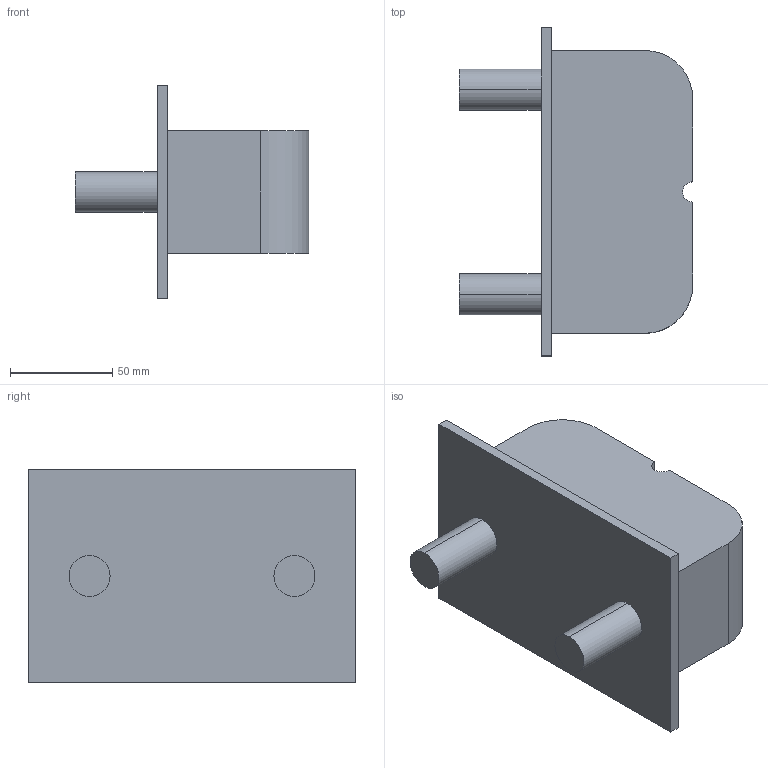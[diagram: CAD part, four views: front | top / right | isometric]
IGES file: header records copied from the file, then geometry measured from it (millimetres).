
Start section: IMSI TurboCAD v14.0
Global section: author: NULL; organization: NULL; date: 20250711.180913; units: millimetre
Bounding box: 114 x 160 x 104 mm (x, y, z)
Surface area: 66850.1 mm2 (no closed solid volume)
Topology: 0 solids, 0 shells, 22 faces, 105 edges, 108 vertices
Faces by surface type: extrusion 14, revolution 8
